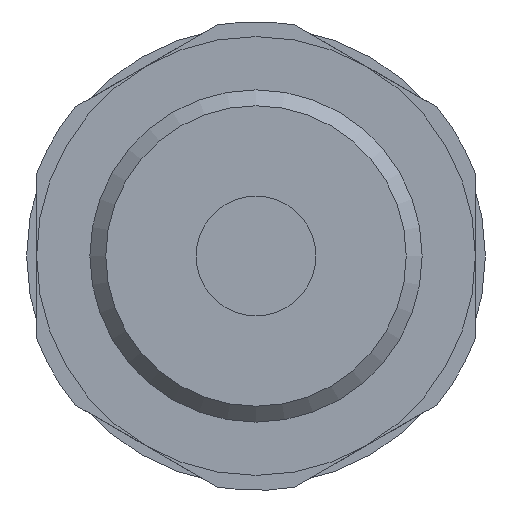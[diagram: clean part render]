
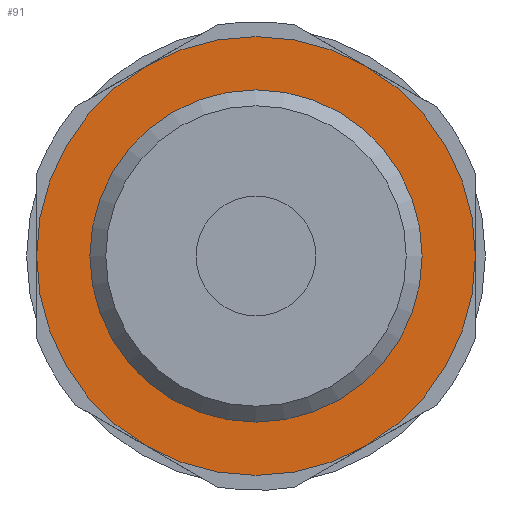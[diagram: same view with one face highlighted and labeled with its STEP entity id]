
A CAD part, front view. The second image highlights one B-rep face of the part: STEP entity #91.
In plain terms, the highlighted planar face has unit normal (0, -1, 0).
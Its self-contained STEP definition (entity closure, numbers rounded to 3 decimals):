
#91 = ADVANCED_FACE( '', ( #154, #155 ), #156, .F. );
#154 = FACE_BOUND( '', #242, .T. );
#155 = FACE_OUTER_BOUND( '', #243, .T. );
#156 = PLANE( '', #244 );
#242 = EDGE_LOOP( '', ( #379 ) );
#243 = EDGE_LOOP( '', ( #380 ) );
#244 = AXIS2_PLACEMENT_3D( '', #381, #382, #383 );
#379 = ORIENTED_EDGE( '', *, *, #530, .F. );
#380 = ORIENTED_EDGE( '', *, *, #531, .T. );
#381 = CARTESIAN_POINT( '', ( 11., 0., 0. ) );
#382 = DIRECTION( '', ( 0., 1., 0. ) );
#383 = DIRECTION( '', ( 0., 0., 1. ) );
#530 = EDGE_CURVE( '', #614, #614, #615, .T. );
#531 = EDGE_CURVE( '', #616, #616, #617, .T. );
#614 = VERTEX_POINT( '', #744 );
#615 = CIRCLE( '', #745, 8.331 );
#616 = VERTEX_POINT( '', #746 );
#617 = CIRCLE( '', #747, 11. );
#744 = CARTESIAN_POINT( '', ( 0., 0., -8.331 ) );
#745 = AXIS2_PLACEMENT_3D( '', #864, #865, #866 );
#746 = CARTESIAN_POINT( '', ( 0., 0., -11. ) );
#747 = AXIS2_PLACEMENT_3D( '', #867, #868, #869 );
#864 = CARTESIAN_POINT( '', ( 0., 0., 0. ) );
#865 = DIRECTION( '', ( 0., -1., 0. ) );
#866 = DIRECTION( '', ( 0., 0., -1. ) );
#867 = CARTESIAN_POINT( '', ( 0., 0., 0. ) );
#868 = DIRECTION( '', ( 0., -1., 0. ) );
#869 = DIRECTION( '', ( 0., 0., -1. ) );
